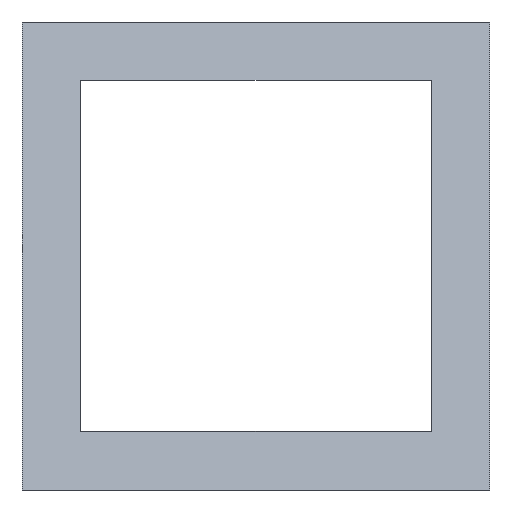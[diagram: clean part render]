
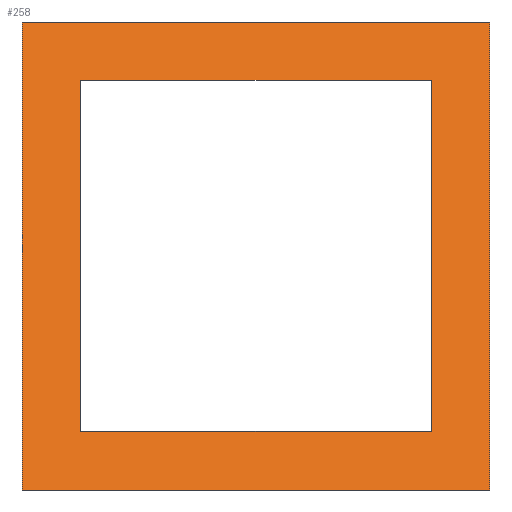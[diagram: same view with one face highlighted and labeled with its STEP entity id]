
A CAD part, front view. The second image highlights one B-rep face of the part: STEP entity #258.
In plain terms, the highlighted planar face has unit normal (0, -0.707, 0.707).
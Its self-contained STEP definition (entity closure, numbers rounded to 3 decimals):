
#22 = VERTEX_POINT('',#23);
#23 = CARTESIAN_POINT('',(547.2,412.413,5.675));
#31 = EDGE_CURVE('',#22,#32,#34,.T.);
#32 = VERTEX_POINT('',#33);
#33 = CARTESIAN_POINT('',(566.25,412.413,5.675));
#34 = LINE('',#35,#36);
#35 = CARTESIAN_POINT('',(547.2,412.413,5.675));
#36 = VECTOR('',#37,1.);
#37 = DIRECTION('',(1.,0.,0.));
#61 = EDGE_CURVE('',#22,#62,#64,.T.);
#62 = VERTEX_POINT('',#63);
#63 = CARTESIAN_POINT('',(547.2,431.463,24.725));
#64 = LINE('',#65,#66);
#65 = CARTESIAN_POINT('',(547.2,567.326,160.588));
#66 = VECTOR('',#67,1.);
#67 = DIRECTION('',(0.,0.707,0.707));
#194 = EDGE_CURVE('',#32,#195,#197,.T.);
#195 = VERTEX_POINT('',#196);
#196 = CARTESIAN_POINT('',(566.25,431.463,24.725));
#197 = LINE('',#198,#199);
#198 = CARTESIAN_POINT('',(566.25,567.326,160.588));
#199 = VECTOR('',#200,1.);
#200 = DIRECTION('',(0.,0.707,0.707));
#258 = ADVANCED_FACE('',(#259,#293),#304,.F.);
#259 = FACE_BOUND('',#260,.F.);
#260 = EDGE_LOOP('',(#261,#271,#279,#287));
#261 = ORIENTED_EDGE('',*,*,#262,.T.);
#262 = EDGE_CURVE('',#263,#265,#267,.T.);
#263 = VERTEX_POINT('',#264);
#264 = CARTESIAN_POINT('',(544.025,409.238,2.5));
#265 = VERTEX_POINT('',#266);
#266 = CARTESIAN_POINT('',(544.025,434.638,27.9));
#267 = LINE('',#268,#269);
#268 = CARTESIAN_POINT('',(544.025,565.738,159.));
#269 = VECTOR('',#270,1.);
#270 = DIRECTION('',(0.,0.707,0.707));
#271 = ORIENTED_EDGE('',*,*,#272,.T.);
#272 = EDGE_CURVE('',#265,#273,#275,.T.);
#273 = VERTEX_POINT('',#274);
#274 = CARTESIAN_POINT('',(569.425,434.638,27.9));
#275 = LINE('',#276,#277);
#276 = CARTESIAN_POINT('',(543.025,434.638,27.9));
#277 = VECTOR('',#278,1.);
#278 = DIRECTION('',(1.,0.,0.));
#279 = ORIENTED_EDGE('',*,*,#280,.F.);
#280 = EDGE_CURVE('',#281,#273,#283,.T.);
#281 = VERTEX_POINT('',#282);
#282 = CARTESIAN_POINT('',(569.425,409.238,2.5));
#283 = LINE('',#284,#285);
#284 = CARTESIAN_POINT('',(569.425,565.738,159.));
#285 = VECTOR('',#286,1.);
#286 = DIRECTION('',(0.,0.707,0.707));
#287 = ORIENTED_EDGE('',*,*,#288,.F.);
#288 = EDGE_CURVE('',#263,#281,#289,.T.);
#289 = LINE('',#290,#291);
#290 = CARTESIAN_POINT('',(544.025,409.238,2.5));
#291 = VECTOR('',#292,1.);
#292 = DIRECTION('',(1.,0.,0.));
#293 = FACE_BOUND('',#294,.F.);
#294 = EDGE_LOOP('',(#295,#296,#297,#298));
#295 = ORIENTED_EDGE('',*,*,#61,.F.);
#296 = ORIENTED_EDGE('',*,*,#31,.T.);
#297 = ORIENTED_EDGE('',*,*,#194,.T.);
#298 = ORIENTED_EDGE('',*,*,#299,.F.);
#299 = EDGE_CURVE('',#62,#195,#300,.T.);
#300 = LINE('',#301,#302);
#301 = CARTESIAN_POINT('',(544.025,431.463,24.725));
#302 = VECTOR('',#303,1.);
#303 = DIRECTION('',(1.,0.,0.));
#304 = PLANE('',#305);
#305 = AXIS2_PLACEMENT_3D('',#306,#307,#308);
#306 = CARTESIAN_POINT('',(530.,722.238,315.5));
#307 = DIRECTION('',(0.,0.707,-0.707));
#308 = DIRECTION('',(0.,-0.707,-0.707));
